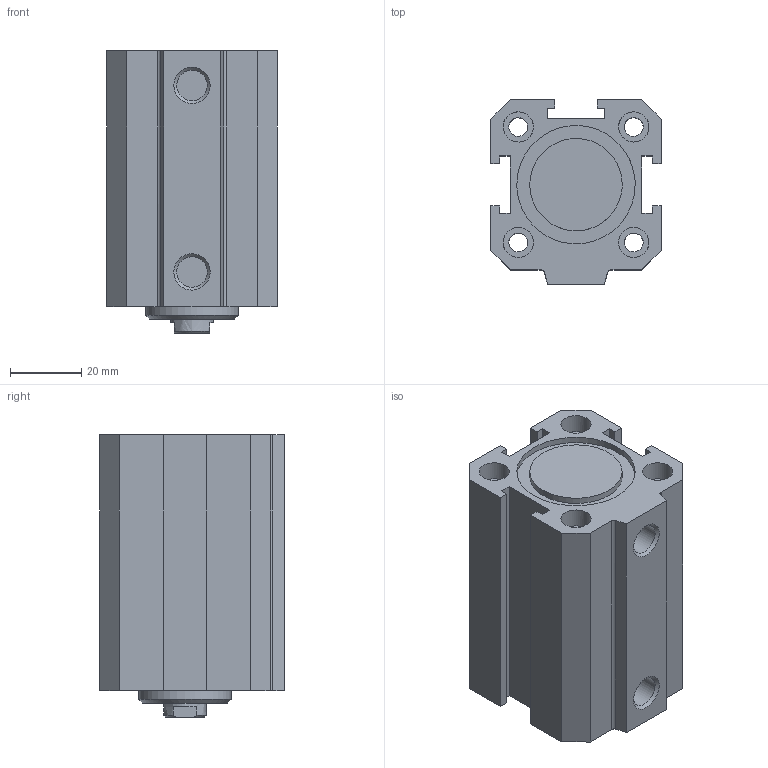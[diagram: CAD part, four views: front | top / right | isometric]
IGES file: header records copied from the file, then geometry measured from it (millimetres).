
Global section: file name: 1511_32_0035; native system: Autodesk Inventor 2014; preprocessor: unknown; author: A. Manieri; date: 20160824.113425; units: millimetre
Bounding box: 48 x 52 x 79.5 mm (x, y, z)
Volume: 117146.8 mm3; surface area: 39932.6 mm2
Topology: 2 solids, 2 shells, 93 faces, 237 edges, 166 vertices
Faces by surface type: bspline 93
